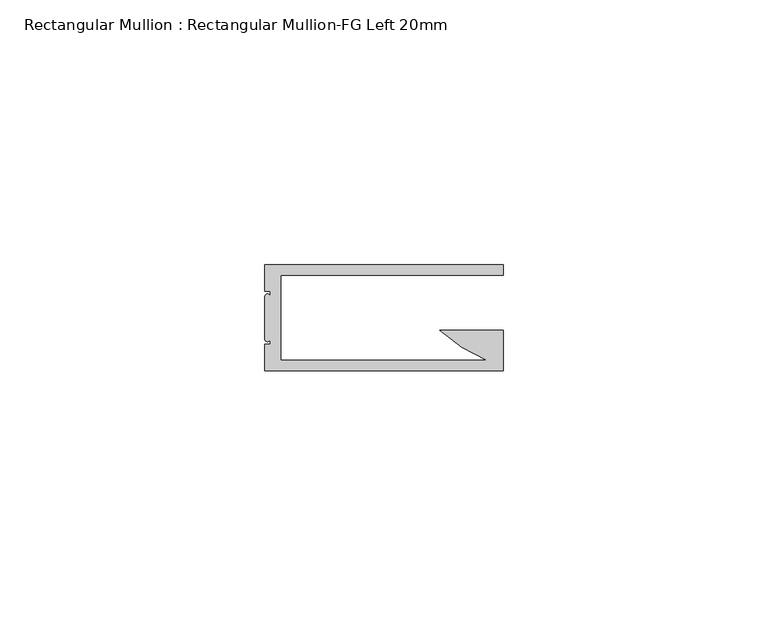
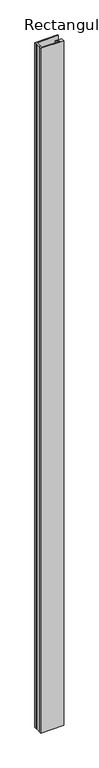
"""IFC4 building model written with IfcOpenShell, lengths in millimetres: member geometry, Rectangular Mullion : Rectangular Mullion-FG Left 20mm."""

from ifc_helpers import new_model, si_unit, frame, origin, place, context, project, spatial, circle_curve, source, transform, mapped, element, save
from ifc_brep_helpers import plane_surface, cylinder_surface, advanced_brep


def rectangular_mullion_rectangular_mullion_fg_left_20mm_e4ea84c6(model_context):
    return source(origin(), model_context, "Body", "AdvancedBrep", [
        advanced_brep(
        [(-45.0, -5.002, 0.0), (-44.0, -5.002, 0.0), (-44.0, -6.002, 0.0), (-45.0, -6.002, 0.0), (-45.0, -14.002, 0.0), (-44.0, -14.002, 0.0), (-44.0, -15.002, 0.0), (-45.0, -15.002, 0.0), (-45.0, -20.002, 0.0), (0.0, -20.002, 0.0), (0.0, -18.002, 0.0), (0.0, -12.382, 0.0), (-11.9525144, -12.382, 0.0), (-3.1348386, -18.002, 0.0), (-42.0, -18.002, 0.0), (-42.0, -2.002, 0.0), (0.0, -2.002, 0.0), (0.0, -0.002, 0.0), (-45.0, -0.002, 0.0), (-45.0, -5.002, -1417.0033917), (-45.0, -0.002, -1417.0033917), (0.0, -0.002, -1417.0033917), (0.0, -2.002, -1417.0033917), (-42.0, -2.002, -1417.0033917), (-42.0, -18.002, -1417.0033917), (-3.1348386, -18.002, -1417.0033917), (-11.9525144, -12.382, -1417.0033917), (0.0, -12.382, -1417.0033917), (0.0, -18.002, -1417.0033917), (0.0, -20.002, -1417.0033917), (-45.0, -20.002, -1417.0033917), (-45.0, -15.002, -1417.0033917), (-44.0, -15.002, -1417.0033917), (-44.0, -14.002, -1417.0033917), (-45.0, -14.002, -1417.0033917), (-45.0, -6.002, -1417.0033917), (-44.0, -6.002, -1417.0033917), (-44.0, -5.002, -1417.0033917)],
        [
            (0, 1),
            (1, 2),
            (2, 3, circle_curve(frame((-44.5, -6.002, 0.0), z_axis=(0.0, 0.0, 1.0), x_axis=(-1.0, 0.0, 0.0)), 0.5)),
            (3, 4),
            (4, 5, circle_curve(frame((-44.5, -14.002, 0.0), z_axis=(0.0, 0.0, 1.0), x_axis=(-1.0, 0.0, 0.0)), 0.5)),
            (5, 6),
            (6, 7),
            (7, 8),
            (8, 9),
            (9, 10),
            (10, 11),
            (11, 12),
            (12, 13, circle_curve(frame((7.4160523, 8.2795369, 0.0), z_axis=(0.0, 0.0, 1.0), x_axis=(-1.0, 0.0, 0.0)), 28.3203192)),
            (13, 14),
            (14, 15),
            (15, 16),
            (16, 17),
            (17, 18),
            (18, 0),
            (19, 20),
            (20, 21),
            (21, 22),
            (22, 23),
            (23, 24),
            (24, 25),
            (25, 26, circle_curve(frame((7.4160523, 8.2795369, -1417.0033917), z_axis=(0.0, 0.0, -1.0), x_axis=(-1.0, 0.0, 0.0)), 28.3203192)),
            (26, 27),
            (27, 28),
            (28, 29),
            (29, 30),
            (30, 31),
            (31, 32),
            (32, 33),
            (33, 34, circle_curve(frame((-44.5, -14.002, -1417.0033917), z_axis=(0.0, 0.0, -1.0), x_axis=(-1.0, 0.0, 0.0)), 0.5)),
            (34, 35),
            (35, 36, circle_curve(frame((-44.5, -6.002, -1417.0033917), z_axis=(0.0, 0.0, -1.0), x_axis=(-1.0, 0.0, 0.0)), 0.5)),
            (36, 37),
            (37, 19),
            (0, 19),
            (37, 1),
            (36, 2),
            (35, 3),
            (34, 4),
            (33, 5),
            (32, 6),
            (31, 7),
            (30, 8),
            (29, 9),
            (28, 10),
            (27, 11),
            (26, 12),
            (25, 13),
            (24, 14),
            (23, 15),
            (22, 16),
            (21, 17),
            (20, 18),
        ],
        [
            plane_surface(frame((0.0, -49.2451013, 0.0), z_axis=(0.0, 0.0, 1.0), x_axis=(-1.0, 0.0, 0.0))),
            plane_surface(frame((0.0, -49.2451013, -1417.0033917), z_axis=(0.0, 0.0, -1.0), x_axis=(-1.0, 0.0, 0.0))),
            plane_surface(frame((-45.0, -5.002, 0.0), z_axis=(0.0, -1.0, 0.0), x_axis=(0.0, 0.0, -1.0))),
            plane_surface(frame((-44.0, -5.002, 0.0), z_axis=(-1.0, 0.0, 0.0), x_axis=(0.0, 0.0, -1.0))),
            cylinder_surface(frame((-44.5, -6.002, 0.0), z_axis=(0.0, 0.0, 1.0), x_axis=(-1.0, 0.0, 0.0)), 0.5),
            plane_surface(frame((-45.0, -6.002, 0.0), z_axis=(-1.0, 0.0, 0.0), x_axis=(0.0, 0.0, -1.0))),
            cylinder_surface(frame((-44.5, -14.002, 0.0), z_axis=(0.0, 0.0, 1.0), x_axis=(-1.0, 0.0, 0.0)), 0.5),
            plane_surface(frame((-44.0, -14.002, 0.0), z_axis=(-1.0, 0.0, 0.0), x_axis=(0.0, 0.0, -1.0))),
            plane_surface(frame((-44.0, -15.002, 0.0), z_axis=(0.0, 1.0, 0.0), x_axis=(0.0, 0.0, -1.0))),
            plane_surface(frame((-45.0, -15.002, 0.0), z_axis=(-1.0, 0.0, 0.0), x_axis=(0.0, 0.0, -1.0))),
            plane_surface(frame((-45.0, -20.002, 0.0), z_axis=(0.0, -1.0, 0.0), x_axis=(0.0, 0.0, -1.0))),
            plane_surface(frame((0.0, -20.002, 0.0), z_axis=(1.0, 0.0, 0.0), x_axis=(0.0, 0.0, -1.0))),
            plane_surface(frame((0.0, -18.002, 0.0), z_axis=(1.0, 0.0, 0.0), x_axis=(0.0, 0.0, -1.0))),
            plane_surface(frame((0.0, -12.382, 0.0), z_axis=(0.0, 1.0, 0.0), x_axis=(0.0, 0.0, -1.0))),
            cylinder_surface(frame((7.4160523, 8.2795369, 0.0), z_axis=(0.0, 0.0, 1.0), x_axis=(-1.0, 0.0, 0.0)), 28.3203192),
            plane_surface(frame((-3.1348386, -18.002, 0.0), z_axis=(0.0, 1.0, 0.0), x_axis=(0.0, 0.0, -1.0))),
            plane_surface(frame((-42.0, -18.002, 0.0), z_axis=(1.0, 0.0, 0.0), x_axis=(0.0, 0.0, -1.0))),
            plane_surface(frame((-42.0, -2.002, 0.0), z_axis=(0.0, -1.0, 0.0), x_axis=(0.0, 0.0, -1.0))),
            plane_surface(frame((0.0, -2.002, 0.0), z_axis=(1.0, 0.0, 0.0), x_axis=(0.0, 0.0, -1.0))),
            plane_surface(frame((0.0, -0.002, 0.0), z_axis=(0.0, 1.0, 0.0), x_axis=(0.0, 0.0, -1.0))),
            plane_surface(frame((-45.0, -0.002, 0.0), z_axis=(-1.0, 0.0, 0.0), x_axis=(0.0, 0.0, -1.0))),
        ],
        [
            (0, [[1, 2, 3, 4, 5, 6, 7, 8, 9, 10, 11, 12, 13, 14, 15, 16, 17, 18, 19]]),
            (1, [[20, 21, 22, 23, 24, 25, 26, 27, 28, 29, 30, 31, 32, 33, 34, 35, 36, 37, 38]]),
            (2, [[-1, 39, -38, 40]]),
            (3, [[-2, -40, -37, 41]]),
            (4, [[-3, -41, -36, 42]]),
            (5, [[-4, -42, -35, 43]]),
            (6, [[-5, -43, -34, 44]]),
            (7, [[-6, -44, -33, 45]]),
            (8, [[-7, -45, -32, 46]]),
            (9, [[-8, -46, -31, 47]]),
            (10, [[-9, -47, -30, 48]]),
            (11, [[-10, -48, -29, 49]]),
            (12, [[-11, -49, -28, 50]]),
            (13, [[-12, -50, -27, 51]]),
            (14, [[-13, -51, -26, 52]]),
            (15, [[-14, -52, -25, 53]]),
            (16, [[-15, -53, -24, 54]]),
            (17, [[-16, -54, -23, 55]]),
            (18, [[-17, -55, -22, 56]]),
            (19, [[-18, -56, -21, 57]]),
            (20, [[-19, -57, -20, -39]]),
        ],
    ),
    ])


if __name__ == "__main__":
    model = new_model("IFC4")
    model_context = context("Model", 3, world=origin())
    ifc_project = project(units=[si_unit("LENGTHUNIT", "METRE", prefix="MILLI")], contexts=[model_context])
    site = spatial("IfcSite", under=ifc_project)
    building = spatial("IfcBuilding", under=site)
    placement = place(None, origin())
    rectangular_mullion_rectangular_mullion_fg_left_20mm_shape = rectangular_mullion_rectangular_mullion_fg_left_20mm_e4ea84c6(model_context)
    element("IfcMember", 1, ObjectType="Rectangular Mullion : Rectangular Mullion-FG Left 20mm", at=placement, inside=building, context=model_context, shape_type="MappedRepresentation", body=[
        mapped(rectangular_mullion_rectangular_mullion_fg_left_20mm_shape, transform((0.0, 0.0, 0.0), x_axis=(1.0, 0.0, 0.0), y_axis=(0.0, 1.0, 0.0), z_axis=(0.0, 0.0, 1.0))),
    ])
    save(model, "model.ifc")
